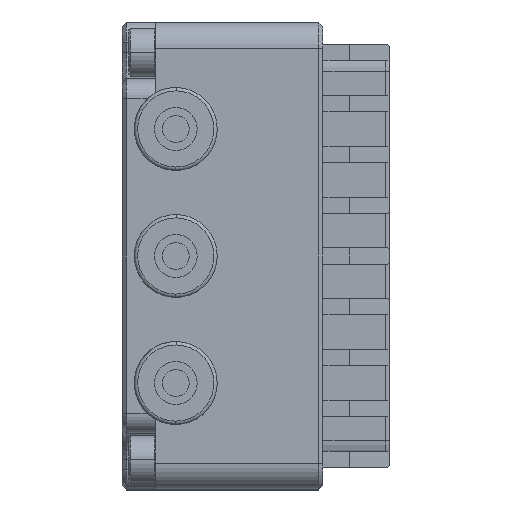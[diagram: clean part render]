
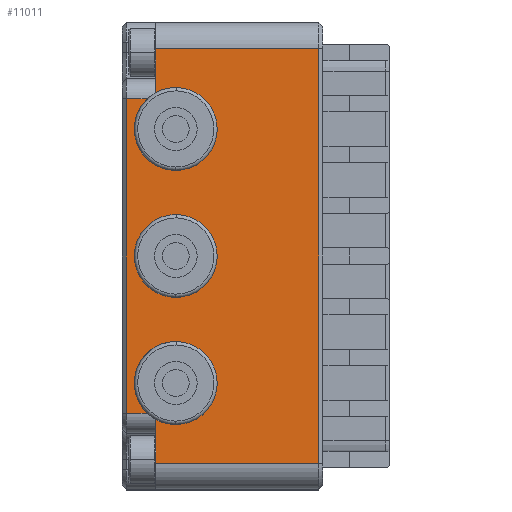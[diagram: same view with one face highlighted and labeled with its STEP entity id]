
A CAD part, left-side view. The second image highlights one B-rep face of the part: STEP entity #11011.
In plain terms, the highlighted planar face has unit normal (-1, 0, 0).
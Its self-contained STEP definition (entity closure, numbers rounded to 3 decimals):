
#393=DIRECTION('',(0.,0.,-1.));
#394=VECTOR('',#393,3.287);
#395=CARTESIAN_POINT('',(-42.,1.5,15.5));
#396=LINE('',#395,#394);
#401=DIRECTION('',(0.,0.,-1.));
#402=VECTOR('',#401,3.287);
#403=CARTESIAN_POINT('',(-42.,1.5,-12.213));
#404=LINE('',#403,#402);
#540=CARTESIAN_POINT('',(-42.,0.,0.));
#541=DIRECTION('',(1.,0.,0.));
#542=DIRECTION('',(0.,0.009,-1.));
#543=AXIS2_PLACEMENT_3D('',#540,#541,#542);
#545=CARTESIAN_POINT('',(-42.,0.,0.));
#546=DIRECTION('',(1.,0.,0.));
#547=DIRECTION('',(0.,-0.009,1.));
#548=AXIS2_PLACEMENT_3D('',#545,#546,#547);
#550=CARTESIAN_POINT('',(-42.,0.,-9.5));
#551=DIRECTION('',(1.,0.,0.));
#552=DIRECTION('',(0.,-0.009,1.));
#553=AXIS2_PLACEMENT_3D('',#550,#551,#552);
#555=CARTESIAN_POINT('',(-42.,0.,-9.5));
#556=DIRECTION('',(1.,0.,0.));
#557=DIRECTION('',(0.,0.688,-0.726));
#558=AXIS2_PLACEMENT_3D('',#555,#556,#557);
#560=DIRECTION('',(0.,-1.,0.));
#561=VECTOR('',#560,1.568);
#562=CARTESIAN_POINT('',(-42.,3.7,-11.75));
#563=LINE('',#562,#561);
#564=DIRECTION('',(0.,0.,1.));
#565=VECTOR('',#564,23.5);
#566=CARTESIAN_POINT('',(-42.,3.7,-11.75));
#567=LINE('',#566,#565);
#568=DIRECTION('',(0.,1.,0.));
#569=VECTOR('',#568,1.568);
#570=CARTESIAN_POINT('',(-42.,2.132,11.75));
#571=LINE('',#570,#569);
#572=CARTESIAN_POINT('',(-42.,0.,9.5));
#573=DIRECTION('',(1.,0.,0.));
#574=DIRECTION('',(0.,0.009,-1.));
#575=AXIS2_PLACEMENT_3D('',#572,#573,#574);
#577=CARTESIAN_POINT('',(-42.,0.,9.5));
#578=DIRECTION('',(1.,0.,0.));
#579=DIRECTION('',(0.,-0.009,1.));
#580=AXIS2_PLACEMENT_3D('',#577,#578,#579);
#582=CARTESIAN_POINT('',(-42.,0.,9.5));
#583=DIRECTION('',(1.,0.,0.));
#584=DIRECTION('',(0.,0.484,0.875));
#585=AXIS2_PLACEMENT_3D('',#582,#583,#584);
#587=DIRECTION('',(0.,0.,1.));
#588=VECTOR('',#587,31.);
#589=CARTESIAN_POINT('',(-42.,-10.7,
-15.5));
#590=LINE('',#589,#588);
#591=CARTESIAN_POINT('',(-42.,0.,-9.5));
#592=DIRECTION('',(1.,0.,0.));
#593=DIRECTION('',(0.,0.009,-1.));
#594=AXIS2_PLACEMENT_3D('',#591,#592,#593);
#1515=DIRECTION('',(0.,1.,0.));
#1516=VECTOR('',#1515,12.2);
#1517=CARTESIAN_POINT('',(-42.,-10.7,
15.5));
#1518=LINE('',#1517,#1516);
#1588=DIRECTION('',(0.,-1.,0.));
#1589=VECTOR('',#1588,12.2);
#1590=CARTESIAN_POINT('',(-42.,1.5,-15.5));
#1591=LINE('',#1590,#1589);
#8290=CARTESIAN_POINT('',(-42.,-10.7,15.5));
#8292=VERTEX_POINT('',#8290);
#8318=CARTESIAN_POINT('',(-42.,-10.7,-15.5));
#8319=VERTEX_POINT('',#8318);
#9115=CARTESIAN_POINT('',(-42.,1.5,-15.5));
#9117=VERTEX_POINT('',#9115);
#9118=CARTESIAN_POINT('',(-42.,1.5,15.5));
#9120=VERTEX_POINT('',#9118);
#9196=CARTESIAN_POINT('',(-42.,3.7,-11.75));
#9197=VERTEX_POINT('',#9196);
#9200=CARTESIAN_POINT('',(-42.,3.7,11.75));
#9201=VERTEX_POINT('',#9200);
#9402=CARTESIAN_POINT('',(-42.,0.028,6.4));
#9403=CARTESIAN_POINT('',(-42.,2.132,11.75));
#9404=VERTEX_POINT('',#9402);
#9405=VERTEX_POINT('',#9403);
#9406=CARTESIAN_POINT('',(-42.,1.5,12.213));
#9407=CARTESIAN_POINT('',(-42.,-0.028,12.6));
#9408=VERTEX_POINT('',#9406);
#9409=VERTEX_POINT('',#9407);
#9416=CARTESIAN_POINT('',(-42.,0.028,-3.1));
#9417=CARTESIAN_POINT('',(-42.,-0.028,3.1));
#9418=VERTEX_POINT('',#9416);
#9419=VERTEX_POINT('',#9417);
#9424=CARTESIAN_POINT('',(-42.,-0.028,-6.4));
#9425=CARTESIAN_POINT('',(-42.,0.028,-12.6));
#9426=VERTEX_POINT('',#9424);
#9427=VERTEX_POINT('',#9425);
#9428=CARTESIAN_POINT('',(-42.,1.5,-12.213));
#9429=VERTEX_POINT('',#9428);
#9430=CARTESIAN_POINT('',(-42.,2.132,-11.75));
#9431=VERTEX_POINT('',#9430);
#10975=CARTESIAN_POINT('',(-42.,0.,-17.5));
#10976=DIRECTION('',(-1.,0.,0.));
#10977=DIRECTION('',(0.,0.,1.));
#10978=AXIS2_PLACEMENT_3D('',#10975,#10976,#10977);
#10979=PLANE('',#10978);
#10981=ORIENTED_EDGE('',*,*,#10980,.F.);
#10983=ORIENTED_EDGE('',*,*,#10982,.F.);
#10985=ORIENTED_EDGE('',*,*,#10984,.F.);
#10987=ORIENTED_EDGE('',*,*,#10986,.T.);
#10988=ORIENTED_EDGE('',*,*,#10934,.F.);
#10989=ORIENTED_EDGE('',*,*,#10961,.F.);
#10991=ORIENTED_EDGE('',*,*,#10990,.F.);
#10992=ORIENTED_EDGE('',*,*,#10964,.F.);
#10993=ORIENTED_EDGE('',*,*,#10819,.F.);
#10995=ORIENTED_EDGE('',*,*,#10994,.F.);
#10997=ORIENTED_EDGE('',*,*,#10996,.F.);
#10999=ORIENTED_EDGE('',*,*,#10998,.F.);
#11000=ORIENTED_EDGE('',*,*,#10837,.F.);
#11002=ORIENTED_EDGE('',*,*,#11001,.F.);
#11003=EDGE_LOOP('',(#10981,#10983,#10985,#10987,#10988,#10989,#10991,#10992,
#10993,#10995,#10997,#10999,#11000,#11002));
#11004=FACE_OUTER_BOUND('',#11003,.F.);
#11006=ORIENTED_EDGE('',*,*,#11005,.F.);
#11008=ORIENTED_EDGE('',*,*,#11007,.F.);
#11009=EDGE_LOOP('',(#11006,#11008));
#11010=FACE_BOUND('',#11009,.F.);
#11011=ADVANCED_FACE('',(#11004,#11010),#10979,.T.);
#544=CIRCLE('',#543,3.1);
#549=CIRCLE('',#548,3.1);
#554=CIRCLE('',#553,3.1);
#559=CIRCLE('',#558,3.1);
#576=CIRCLE('',#575,3.1);
#581=CIRCLE('',#580,3.1);
#586=CIRCLE('',#585,3.1);
#595=CIRCLE('',#594,3.1);
#10819=EDGE_CURVE('',#9120,#9408,#396,.T.);
#10837=EDGE_CURVE('',#9429,#9117,#404,.T.);
#10934=EDGE_CURVE('',#9405,#9201,#571,.T.);
#10961=EDGE_CURVE('',#9404,#9405,#576,.T.);
#10964=EDGE_CURVE('',#9408,#9409,#586,.T.);
#10980=EDGE_CURVE('',#9426,#9427,#554,.T.);
#10982=EDGE_CURVE('',#9431,#9426,#559,.T.);
#10984=EDGE_CURVE('',#9197,#9431,#563,.T.);
#10986=EDGE_CURVE('',#9197,#9201,#567,.T.);
#10990=EDGE_CURVE('',#9409,#9404,#581,.T.);
#10994=EDGE_CURVE('',#8292,#9120,#1518,.T.);
#10996=EDGE_CURVE('',#8319,#8292,#590,.T.);
#10998=EDGE_CURVE('',#9117,#8319,#1591,.T.);
#11001=EDGE_CURVE('',#9427,#9429,#595,.T.);
#11005=EDGE_CURVE('',#9418,#9419,#544,.T.);
#11007=EDGE_CURVE('',#9419,#9418,#549,.T.);
